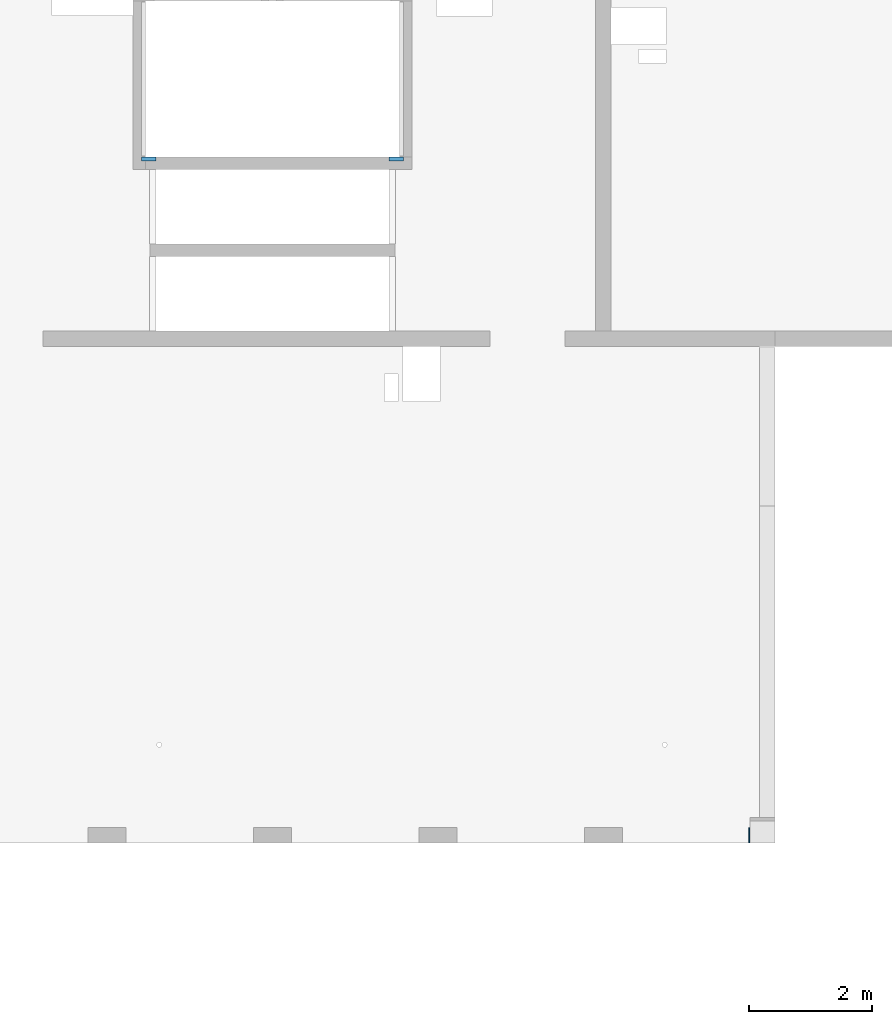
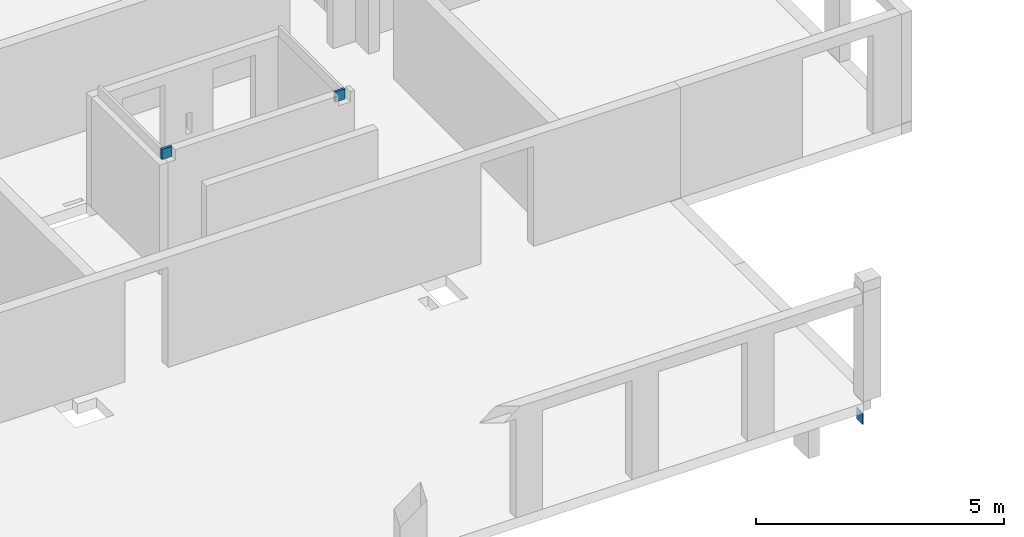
# One storey, part 9 of 12: 3 walls.
"""IFC2X3 building model written with IfcOpenShell, lengths in millimetres."""

from ifc_helpers import new_model, entity, si_unit, converted_unit, derived_unit, direction, frame, frame_2d, origin, place, context, subcontext, project, spatial, rectangle, extrude, material, layer, layer_set, layer_usage, type_object, element, save


model = new_model("IFC2X3")

# Units and contexts
model_context = context("Model", 3, precision=0.01, world=origin(), true_north=direction((6.12303176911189e-17, 1.0)))
body_context = subcontext(model_context, "Body", "Model", "MODEL_VIEW")
ifc_project = project(units=[si_unit("LENGTHUNIT", "METRE", prefix="MILLI"), si_unit("AREAUNIT", "SQUARE_METRE"), si_unit("VOLUMEUNIT", "CUBIC_METRE"), converted_unit("PLANEANGLEUNIT", "DEGREE", entity("IfcRatioMeasure", 0.0174532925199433), si_unit("PLANEANGLEUNIT", "RADIAN"), dimensions=[0, 0, 0, 0, 0, 0, 0]), si_unit("MASSUNIT", "GRAM", prefix="KILO"), derived_unit("MASSDENSITYUNIT", [(si_unit("MASSUNIT", "GRAM", prefix="KILO"), 1), (si_unit("LENGTHUNIT", "METRE"), -3)]), si_unit("TIMEUNIT", "SECOND"), si_unit("FREQUENCYUNIT", "HERTZ"), si_unit("THERMODYNAMICTEMPERATUREUNIT", "DEGREE_CELSIUS"), derived_unit("THERMALTRANSMITTANCEUNIT", [(si_unit("MASSUNIT", "GRAM", prefix="KILO"), 1), (si_unit("THERMODYNAMICTEMPERATUREUNIT", "KELVIN"), -1), (si_unit("TIMEUNIT", "SECOND"), -3)]), derived_unit("VOLUMETRICFLOWRATEUNIT", [(si_unit("LENGTHUNIT", "METRE"), 3), (si_unit("TIMEUNIT", "SECOND"), -1)]), si_unit("ELECTRICCURRENTUNIT", "AMPERE"), si_unit("ELECTRICVOLTAGEUNIT", "VOLT"), si_unit("POWERUNIT", "WATT"), si_unit("FORCEUNIT", "NEWTON", prefix="KILO"), si_unit("ILLUMINANCEUNIT", "LUX"), si_unit("LUMINOUSFLUXUNIT", "LUMEN"), si_unit("LUMINOUSINTENSITYUNIT", "CANDELA"), derived_unit("USERDEFINED", [(si_unit("MASSUNIT", "GRAM", prefix="KILO"), -1), (si_unit("LENGTHUNIT", "METRE"), -2), (si_unit("TIMEUNIT", "SECOND"), 3), (si_unit("LUMINOUSFLUXUNIT", "LUMEN"), 1)]), derived_unit("LINEARVELOCITYUNIT", [(si_unit("LENGTHUNIT", "METRE"), 1), (si_unit("TIMEUNIT", "SECOND"), -1)]), si_unit("PRESSUREUNIT", "PASCAL"), derived_unit("USERDEFINED", [(si_unit("LENGTHUNIT", "METRE"), -2), (si_unit("MASSUNIT", "GRAM", prefix="KILO"), 1), (si_unit("TIMEUNIT", "SECOND"), -2)])], contexts=[model_context])

# Site, building, storey
site_placement = place(None, origin())
site = spatial("IfcSite", under=ifc_project, at=site_placement, Name="Default", CompositionType="ELEMENT")
building_placement = place(site_placement, origin())
building = spatial("IfcBuilding", under=site, at=building_placement, Name="niet gebruiken", CompositionType="ELEMENT")
storey_placement = place(building_placement, frame((0.0, 0.0, 21510.0)))
storey = spatial("IfcBuildingStorey", under=building, at=storey_placement, Name="07 zevende verdieping", CompositionType="ELEMENT", Elevation=21510.0)

# Walls
ifc_material_1 = material(Name="NLRS_f2_beton ihwg")
ifc_layer_1 = layer(ifc_material_1, 250.0)
ifc_layer_set_1 = layer_set([ifc_layer_1], Name="Basic Wall:NLRS_21.21_WA_beton ihwg d=250_gen")
ifc_layer_usage_1 = layer_usage(ifc_layer_set_1, "AXIS2", "NEGATIVE", 125.0)
wall_type_1 = type_object("IfcWallType", Name="Basic Wall:NLRS_21.21_WA_beton ihwg d=250_gen", PredefinedType="STANDARD", material=ifc_layer_set_1)
wall_1_placement = place(storey_placement, frame((50970.0, 28881.0, -620.0)))
element("IfcWallStandardCase", 1, at=wall_1_placement, inside=storey, type_object=wall_type_1, material=ifc_layer_usage_1, Name="Basic Wall:NLRS_21.21_WA_beton ihwg d=250_gen", ObjectType="Basic Wall:NLRS_21.21_WA_beton ihwg d=250_gen", context=body_context, shape_type="SweptSolid", body=[
    extrude(rectangle(XDim=19.999999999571, YDim=250.000000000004, at=frame_2d((9.99999999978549, 1.63424829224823e-13), x_axis=(-1.0, 0.0))), origin(), (0.0, 0.0, 1.0), 280.000000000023),
])
ifc_material_2 = material(Name="NLRS_f2_beton prefab")
ifc_layer_2 = layer(ifc_material_2, 60.0)
ifc_layer_set_2 = layer_set([ifc_layer_2], Name="Basic Wall:NLRS_22.21_WA_beton prefab d=60_gen")
ifc_layer_usage_2 = layer_usage(ifc_layer_set_2, "AXIS2", "NEGATIVE", 30.0)
wall_type_2 = type_object("IfcWallType", Name="Basic Wall:NLRS_22.21_WA_beton prefab d=60_gen", PredefinedType="STANDARD", material=ifc_layer_set_2)
wall_2_placement = place(storey_placement, frame((41065.02321398, 39916.0, 2630.0)))
element("IfcWallStandardCase", 2, at=wall_2_placement, inside=storey, type_object=wall_type_2, material=ifc_layer_usage_2, Name="Basic Wall:NLRS_22.21_WA_beton prefab d=60_gen", ObjectType="Basic Wall:NLRS_22.21_WA_beton prefab d=60_gen", context=body_context, shape_type="SweptSolid", body=[
    extrude(rectangle(XDim=234.976753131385, YDim=60.0000000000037, at=frame_2d((117.488376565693, -4.12292422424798e-12), x_axis=(-1.0, 0.0))), origin(), (0.0, 0.0, 1.0), 250.000000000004),
])
ifc_layer_usage_3 = layer_usage(ifc_layer_set_2, "AXIS2", "POSITIVE", -30.0)
wall_3_placement = place(storey_placement, frame((45334.9767860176, 39916.0, 2630.0), z_axis=(0.0, 0.0, 1.0), x_axis=(-1.0, 0.0, 0.0)))
element("IfcWallStandardCase", 3, at=wall_3_placement, inside=storey, type_object=wall_type_2, material=ifc_layer_usage_3, Name="Basic Wall:NLRS_22.21_WA_beton prefab d=60_gen", ObjectType="Basic Wall:NLRS_22.21_WA_beton prefab d=60_gen", context=body_context, shape_type="SweptSolid", body=[
    extrude(rectangle(XDim=234.976753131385, YDim=60.0000000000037, at=frame_2d((117.488376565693, 4.12114786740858e-12), x_axis=(-1.0, 0.0))), origin(), (0.0, 0.0, 1.0), 250.000000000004),
])

save(model, "model.ifc")
